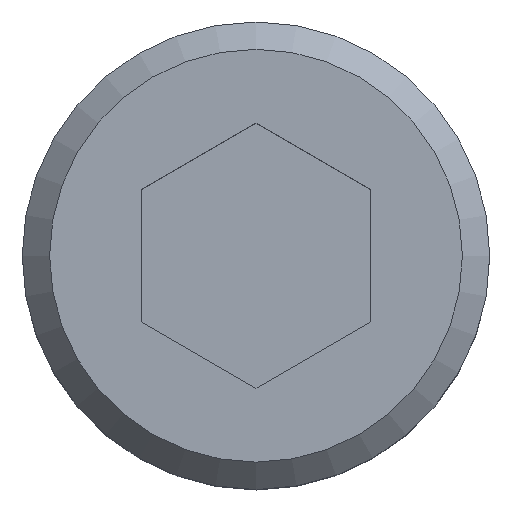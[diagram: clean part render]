
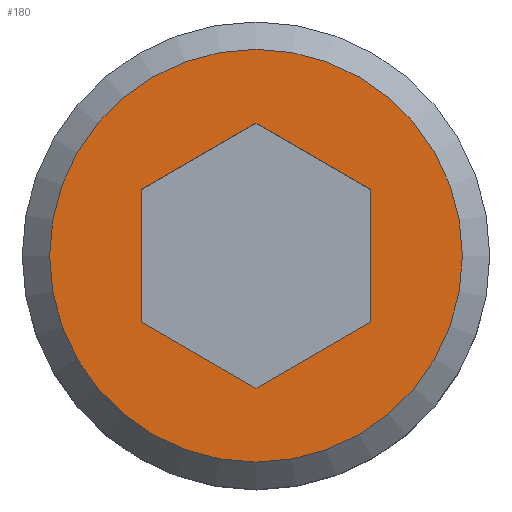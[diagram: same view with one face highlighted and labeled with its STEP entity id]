
A CAD part, top view. The second image highlights one B-rep face of the part: STEP entity #180.
In plain terms, the highlighted planar face has unit normal (0, 0, 1).
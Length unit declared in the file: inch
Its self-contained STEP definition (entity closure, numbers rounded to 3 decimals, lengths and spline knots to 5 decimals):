
#79=CARTESIAN_POINT('',(0.098,0.,0.136));
#80=VERTEX_POINT('',#79);
#81=CARTESIAN_POINT('',(0.0,0.0,0.136));
#82=DIRECTION('',(0.0,0.0,-1.0));
#83=DIRECTION('',(-1.0,0.0,0.0));
#84=AXIS2_PLACEMENT_3D('',#81,#82,#83);
#85=CIRCLE('',#84,0.098);
#86=EDGE_CURVE('',#80,#80,#85,.T.);
#122=CARTESIAN_POINT('',(0.0,0.0,0.136));
#123=DIRECTION('',(0.0,0.0,-1.0));
#124=DIRECTION('',(-1.0,0.0,0.0));
#125=AXIS2_PLACEMENT_3D('',#122,#123,#124);
#126=PLANE('',#125);
#127=ORIENTED_EDGE('',*,*,#86,.F.);
#128=EDGE_LOOP('',(#127));
#129=FACE_OUTER_BOUND('',#128,.T.);
#130=CARTESIAN_POINT('',(-0.0545,-0.03147,0.136));
#131=VERTEX_POINT('',#130);
#132=CARTESIAN_POINT('',(-0.0545,0.03147,0.136));
#133=VERTEX_POINT('',#132);
#134=CARTESIAN_POINT('',(-0.0545,-0.03147,0.136));
#135=DIRECTION('',(0.0,1.0,0.0));
#136=VECTOR('',#135,0.06293);
#137=LINE('',#134,#136);
#138=EDGE_CURVE('',#131,#133,#137,.T.);
#139=ORIENTED_EDGE('',*,*,#138,.T.);
#140=CARTESIAN_POINT('',(0.,0.06293,0.136));
#141=VERTEX_POINT('',#140);
#142=CARTESIAN_POINT('',(-0.0545,0.03147,0.136));
#143=DIRECTION('',(0.866,0.5,0.0));
#144=VECTOR('',#143,0.06293);
#145=LINE('',#142,#144);
#146=EDGE_CURVE('',#133,#141,#145,.T.);
#147=ORIENTED_EDGE('',*,*,#146,.T.);
#148=CARTESIAN_POINT('',(0.0545,0.03147,0.136));
#149=VERTEX_POINT('',#148);
#150=CARTESIAN_POINT('',(0.,0.06293,0.136));
#151=DIRECTION('',(0.866,-0.5,0.0));
#152=VECTOR('',#151,0.06293);
#153=LINE('',#150,#152);
#154=EDGE_CURVE('',#141,#149,#153,.T.);
#155=ORIENTED_EDGE('',*,*,#154,.T.);
#156=CARTESIAN_POINT('',(0.0545,-0.03147,0.136));
#157=VERTEX_POINT('',#156);
#158=CARTESIAN_POINT('',(0.0545,0.03147,0.136));
#159=DIRECTION('',(0.0,-1.0,0.0));
#160=VECTOR('',#159,0.06293);
#161=LINE('',#158,#160);
#162=EDGE_CURVE('',#149,#157,#161,.T.);
#163=ORIENTED_EDGE('',*,*,#162,.T.);
#164=CARTESIAN_POINT('',(0.,-0.06293,0.136));
#165=VERTEX_POINT('',#164);
#166=CARTESIAN_POINT('',(0.0545,-0.03147,0.136));
#167=DIRECTION('',(-0.866,-0.5,0.0));
#168=VECTOR('',#167,0.06293);
#169=LINE('',#166,#168);
#170=EDGE_CURVE('',#157,#165,#169,.T.);
#171=ORIENTED_EDGE('',*,*,#170,.T.);
#172=CARTESIAN_POINT('',(0.,-0.06293,0.136));
#173=DIRECTION('',(-0.866,0.5,0.0));
#174=VECTOR('',#173,0.06293);
#175=LINE('',#172,#174);
#176=EDGE_CURVE('',#165,#131,#175,.T.);
#177=ORIENTED_EDGE('',*,*,#176,.T.);
#178=EDGE_LOOP('',(#139,#147,#155,#163,#171,#177));
#179=FACE_BOUND('',#178,.T.);
#180=ADVANCED_FACE('',(#129,#179),#126,.F.);
